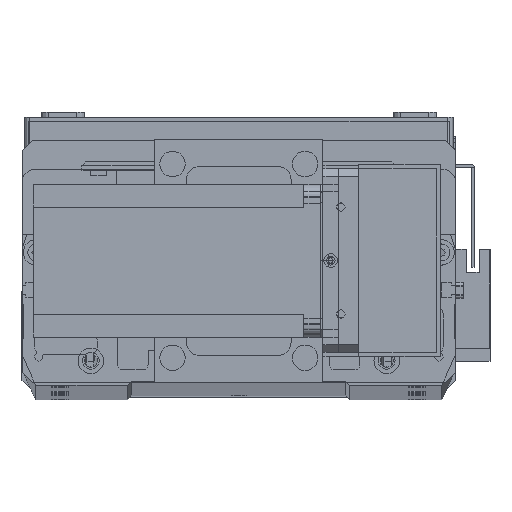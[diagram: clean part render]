
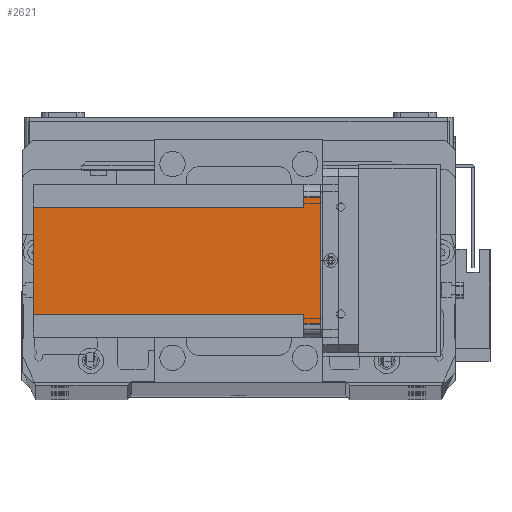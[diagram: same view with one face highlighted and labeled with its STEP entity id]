
A CAD part, top view. The second image highlights one B-rep face of the part: STEP entity #2621.
In plain terms, the highlighted planar face has unit normal (0, 0, 1) as drawn and (-1, 0, 0) by its records, which use the part's own axes.
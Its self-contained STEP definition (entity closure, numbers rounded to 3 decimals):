
#633 = LINE ( 'NONE', #19250, #27292 ) ;
#656 = DIRECTION ( 'NONE',  ( 0., 0., 1. ) ) ;
#2404 = VERTEX_POINT ( 'NONE', #29500 ) ;
#2621 = ADVANCED_FACE ( 'NONE', ( #21649 ), #27257, .T. ) ;
#2722 = CARTESIAN_POINT ( 'NONE',  ( 0., 5., -6.5 ) ) ;
#4355 = VERTEX_POINT ( 'NONE', #21732 ) ;
#4482 = ORIENTED_EDGE ( 'NONE', *, *, #8172, .F. ) ;
#4507 = LINE ( 'NONE', #5938, #12409 ) ;
#5683 = DIRECTION ( 'NONE',  ( 0., -1., 0. ) ) ;
#5938 = CARTESIAN_POINT ( 'NONE',  ( 0., 60., -6.5 ) ) ;
#5948 = CARTESIAN_POINT ( 'NONE',  ( 0., 0., -112.5 ) ) ;
#6107 = ORIENTED_EDGE ( 'NONE', *, *, #14901, .T. ) ;
#6290 = ORIENTED_EDGE ( 'NONE', *, *, #13407, .T. ) ;
#6488 = LINE ( 'NONE', #27467, #26067 ) ;
#6501 = CARTESIAN_POINT ( 'NONE',  ( 0., 0., 0. ) ) ;
#7231 = EDGE_CURVE ( 'NONE', #20422, #32555, #25817, .T. ) ;
#7497 = VECTOR ( 'NONE', #20160, 1000. ) ;
#8172 = EDGE_CURVE ( 'NONE', #33973, #30665, #4507, .T. ) ;
#8786 = VERTEX_POINT ( 'NONE', #9142 ) ;
#9142 = CARTESIAN_POINT ( 'NONE',  ( 0., 9., -6.5 ) ) ;
#10583 = EDGE_CURVE ( 'NONE', #20422, #30665, #6488, .T. ) ;
#10941 = CARTESIAN_POINT ( 'NONE',  ( 0., 0., -112.5 ) ) ;
#11996 = EDGE_LOOP ( 'NONE', ( #17998, #6290, #26297, #14910, #4482, #24384, #6107, #18917 ) ) ;
#12306 = CARTESIAN_POINT ( 'NONE',  ( 0., 55., 0. ) ) ;
#12409 = VECTOR ( 'NONE', #27245, 1000. ) ;
#13285 = VECTOR ( 'NONE', #18776, 1000. ) ;
#13407 = EDGE_CURVE ( 'NONE', #29913, #32555, #633, .T. ) ;
#13944 = DIRECTION ( 'NONE',  ( 0., -1., 0. ) ) ;
#14482 = DIRECTION ( 'NONE',  ( 0., -1., 0. ) ) ;
#14901 = EDGE_CURVE ( 'NONE', #4355, #2404, #32575, .T. ) ;
#14910 = ORIENTED_EDGE ( 'NONE', *, *, #10583, .T. ) ;
#14915 = LINE ( 'NONE', #24018, #13285 ) ;
#15934 = CARTESIAN_POINT ( 'NONE',  ( 0., 51., -6.5 ) ) ;
#15994 = EDGE_CURVE ( 'NONE', #4355, #33973, #22921, .T. ) ;
#16236 = EDGE_CURVE ( 'NONE', #29913, #8786, #22481, .T. ) ;
#17866 = VECTOR ( 'NONE', #14482, 1000. ) ;
#17998 = ORIENTED_EDGE ( 'NONE', *, *, #16236, .F. ) ;
#18776 = DIRECTION ( 'NONE',  ( 0., 0., -1. ) ) ;
#18917 = ORIENTED_EDGE ( 'NONE', *, *, #29919, .F. ) ;
#19250 = CARTESIAN_POINT ( 'NONE',  ( 0., 5., -112.5 ) ) ;
#20160 = DIRECTION ( 'NONE',  ( 0., 1., 0. ) ) ;
#20422 = VERTEX_POINT ( 'NONE', #12306 ) ;
#21649 = FACE_OUTER_BOUND ( 'NONE', #11996, .T. ) ;
#21732 = CARTESIAN_POINT ( 'NONE',  ( 0., 51., -112.5 ) ) ;
#22086 = DIRECTION ( 'NONE',  ( 0., 0., -1. ) ) ;
#22481 = LINE ( 'NONE', #30762, #7497 ) ;
#22921 = LINE ( 'NONE', #26691, #29186 ) ;
#24018 = CARTESIAN_POINT ( 'NONE',  ( 0., 9., -112.5 ) ) ;
#24384 = ORIENTED_EDGE ( 'NONE', *, *, #15994, .F. ) ;
#24446 = CARTESIAN_POINT ( 'NONE',  ( 0., 55., -6.5 ) ) ;
#25505 = VECTOR ( 'NONE', #5683, 1000. ) ;
#25817 = LINE ( 'NONE', #6501, #17866 ) ;
#26067 = VECTOR ( 'NONE', #22086, 1000. ) ;
#26297 = ORIENTED_EDGE ( 'NONE', *, *, #7231, .F. ) ;
#26691 = CARTESIAN_POINT ( 'NONE',  ( 0., 51., -112.5 ) ) ;
#26768 = AXIS2_PLACEMENT_3D ( 'NONE', #5948, #29896, #13944 ) ;
#27245 = DIRECTION ( 'NONE',  ( 0., 1., 0. ) ) ;
#27257 = PLANE ( 'NONE',  #26768 ) ;
#27292 = VECTOR ( 'NONE', #656, 1000. ) ;
#27467 = CARTESIAN_POINT ( 'NONE',  ( 0., 55., -112.5 ) ) ;
#29186 = VECTOR ( 'NONE', #31998, 1000. ) ;
#29500 = CARTESIAN_POINT ( 'NONE',  ( 0., 9., -112.5 ) ) ;
#29896 = DIRECTION ( 'NONE',  ( -1., 0., 0. ) ) ;
#29913 = VERTEX_POINT ( 'NONE', #2722 ) ;
#29919 = EDGE_CURVE ( 'NONE', #8786, #2404, #14915, .T. ) ;
#30665 = VERTEX_POINT ( 'NONE', #24446 ) ;
#30700 = CARTESIAN_POINT ( 'NONE',  ( 0., 5., 0. ) ) ;
#30762 = CARTESIAN_POINT ( 'NONE',  ( 0., 0., -6.5 ) ) ;
#31998 = DIRECTION ( 'NONE',  ( 0., 0., 1. ) ) ;
#32555 = VERTEX_POINT ( 'NONE', #30700 ) ;
#32575 = LINE ( 'NONE', #10941, #25505 ) ;
#33973 = VERTEX_POINT ( 'NONE', #15934 ) ;
